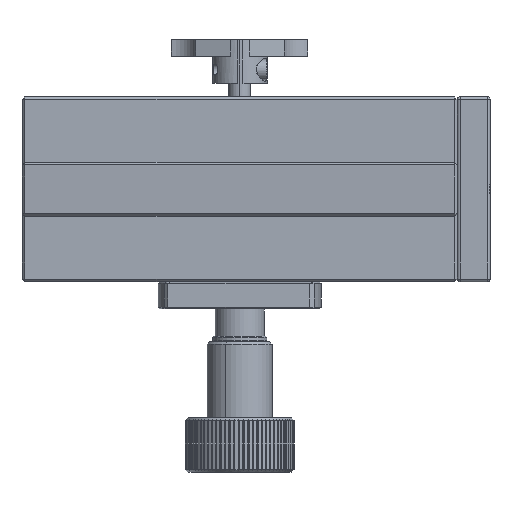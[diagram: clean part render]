
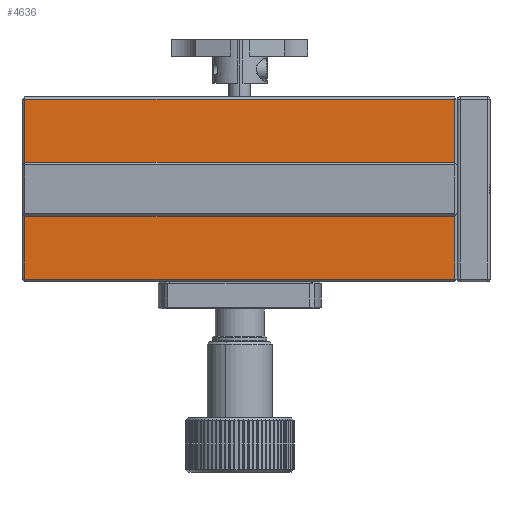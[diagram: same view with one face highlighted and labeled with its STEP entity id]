
A CAD part, left-side view. The second image highlights one B-rep face of the part: STEP entity #4636.
In plain terms, the highlighted planar face has unit normal (-1, 0, 0).
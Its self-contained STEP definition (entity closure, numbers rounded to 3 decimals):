
#537 = EDGE_LOOP ( 'NONE', ( #18690, #18696, #18705, #18714 ) ) ;
#555 = EDGE_LOOP ( 'NONE', ( #18692, #18730 ) ) ;
#563 = EDGE_LOOP ( 'NONE', ( #18742, #18694 ) ) ;
#572 = EDGE_LOOP ( 'NONE', ( #18699, #18693 ) ) ;
#1623 = VECTOR ( 'NONE', #3649, 1000. ) ;
#1624 = LINE ( 'NONE', #3667, #1623 ) ;
#1640 = VECTOR ( 'NONE', #3763, 1000. ) ;
#1652 = LINE ( 'NONE', #3705, #1661 ) ;
#1654 = CIRCLE ( 'NONE', #16956, 1.75 ) ;
#1661 = VECTOR ( 'NONE', #3689, 1000. ) ;
#1676 = CIRCLE ( 'NONE', #16902, 1.75 ) ;
#1698 = LINE ( 'NONE', #3741, #1640 ) ;
#1728 = CIRCLE ( 'NONE', #16949, 1.75 ) ;
#1735 = VECTOR ( 'NONE', #3805, 1000. ) ;
#1736 = CIRCLE ( 'NONE', #16963, 1.75 ) ;
#1747 = LINE ( 'NONE', #3767, #1735 ) ;
#3649 = DIRECTION ( 'NONE',  ( 0., -1., 0. ) ) ;
#3667 = CARTESIAN_POINT ( 'NONE',  ( -6.96, -1.785, -16.5 ) ) ;
#3674 = CARTESIAN_POINT ( 'NONE',  ( -6.96, 38.215, 0. ) ) ;
#3680 = DIRECTION ( 'NONE',  ( 1., 0., 0. ) ) ;
#3683 = DIRECTION ( 'NONE',  ( 0., 1., 0. ) ) ;
#3689 = DIRECTION ( 'NONE',  ( 0., 0., 1. ) ) ;
#3690 = DIRECTION ( 'NONE',  ( 0., 1., 0. ) ) ;
#3694 = CARTESIAN_POINT ( 'NONE',  ( -6.96, 68.215, 0. ) ) ;
#3705 = CARTESIAN_POINT ( 'NONE',  ( -6.96, -1.285, 17. ) ) ;
#3721 = DIRECTION ( 'NONE',  ( 1., 0., 0. ) ) ;
#3741 = CARTESIAN_POINT ( 'NONE',  ( -6.96, 77.715, 17. ) ) ;
#3763 = DIRECTION ( 'NONE',  ( 0., 0., -1. ) ) ;
#3767 = CARTESIAN_POINT ( 'NONE',  ( -6.96, -1.785, 16.5 ) ) ;
#3769 = CARTESIAN_POINT ( 'NONE',  ( -6.96, 68.215, 0. ) ) ;
#3770 = DIRECTION ( 'NONE',  ( 0., 1., 0. ) ) ;
#3773 = DIRECTION ( 'NONE',  ( 1., 0., 0. ) ) ;
#3787 = DIRECTION ( 'NONE',  ( 0., 1., 0. ) ) ;
#3795 = DIRECTION ( 'NONE',  ( 1., 0., 0. ) ) ;
#3805 = DIRECTION ( 'NONE',  ( 0., 1., 0. ) ) ;
#3809 = CARTESIAN_POINT ( 'NONE',  ( -6.96, 38.215, 0. ) ) ;
#4636 = ADVANCED_FACE ( 'NONE', ( #12045, #12123, #12091, #12125 ), #14055, .F. ) ;
#5193 = CARTESIAN_POINT ( 'NONE',  ( -6.96, 8.215, 0. ) ) ;
#5198 = DIRECTION ( 'NONE',  ( 1., 0., 0. ) ) ;
#5208 = DIRECTION ( 'NONE',  ( 0., 1., 0. ) ) ;
#5268 = DIRECTION ( 'NONE',  ( 0., 1., 0. ) ) ;
#5284 = CARTESIAN_POINT ( 'NONE',  ( -6.96, 8.215, 0. ) ) ;
#5288 = DIRECTION ( 'NONE',  ( 1., 0., 0. ) ) ;
#8788 = VERTEX_POINT ( 'NONE', #25429 ) ;
#8820 = VERTEX_POINT ( 'NONE', #25446 ) ;
#8836 = VERTEX_POINT ( 'NONE', #25391 ) ;
#8838 = VERTEX_POINT ( 'NONE', #25448 ) ;
#8888 = VERTEX_POINT ( 'NONE', #25474 ) ;
#8928 = VERTEX_POINT ( 'NONE', #25574 ) ;
#8933 = VERTEX_POINT ( 'NONE', #25527 ) ;
#8936 = VERTEX_POINT ( 'NONE', #25533 ) ;
#8941 = VERTEX_POINT ( 'NONE', #25551 ) ;
#8950 = VERTEX_POINT ( 'NONE', #25559 ) ;
#12045 = FACE_OUTER_BOUND ( 'NONE', #537, .T. ) ;
#12091 = FACE_BOUND ( 'NONE', #555, .T. ) ;
#12123 = FACE_BOUND ( 'NONE', #563, .T. ) ;
#12125 = FACE_BOUND ( 'NONE', #572, .T. ) ;
#14024 = DIRECTION ( 'NONE',  ( 1., 0., 0. ) ) ;
#14037 = DIRECTION ( 'NONE',  ( 0., 0., 1. ) ) ;
#14055 = PLANE ( 'NONE',  #17740 ) ;
#14072 = CARTESIAN_POINT ( 'NONE',  ( -6.96, -1.785, 17. ) ) ;
#14861 = EDGE_CURVE ( 'NONE', #8950, #8788, #1624, .T. ) ;
#14870 = EDGE_CURVE ( 'NONE', #8941, #8888, #1654, .T. ) ;
#14878 = EDGE_CURVE ( 'NONE', #8936, #8838, #1676, .T. ) ;
#14884 = EDGE_CURVE ( 'NONE', #8788, #8820, #1652, .T. ) ;
#14894 = EDGE_CURVE ( 'NONE', #8933, #8950, #1698, .T. ) ;
#14909 = EDGE_CURVE ( 'NONE', #8838, #8936, #1736, .T. ) ;
#14914 = EDGE_CURVE ( 'NONE', #8820, #8933, #1747, .T. ) ;
#14917 = EDGE_CURVE ( 'NONE', #8888, #8941, #1728, .T. ) ;
#15548 = CIRCLE ( 'NONE', #17110, 1.75 ) ;
#15561 = CIRCLE ( 'NONE', #17244, 1.75 ) ;
#16902 = AXIS2_PLACEMENT_3D ( 'NONE', #3694, #3721, #3690 ) ;
#16949 = AXIS2_PLACEMENT_3D ( 'NONE', #3809, #3795, #3770 ) ;
#16956 = AXIS2_PLACEMENT_3D ( 'NONE', #3674, #3680, #3683 ) ;
#16963 = AXIS2_PLACEMENT_3D ( 'NONE', #3769, #3773, #3787 ) ;
#17110 = AXIS2_PLACEMENT_3D ( 'NONE', #5193, #5198, #5208 ) ;
#17244 = AXIS2_PLACEMENT_3D ( 'NONE', #5284, #5288, #5268 ) ;
#17740 = AXIS2_PLACEMENT_3D ( 'NONE', #14072, #14024, #14037 ) ;
#17808 = EDGE_CURVE ( 'NONE', #8928, #8836, #15548, .T. ) ;
#17854 = EDGE_CURVE ( 'NONE', #8836, #8928, #15561, .T. ) ;
#18690 = ORIENTED_EDGE ( 'NONE', *, *, #14914, .T. ) ;
#18692 = ORIENTED_EDGE ( 'NONE', *, *, #14917, .T. ) ;
#18693 = ORIENTED_EDGE ( 'NONE', *, *, #14878, .T. ) ;
#18694 = ORIENTED_EDGE ( 'NONE', *, *, #17808, .T. ) ;
#18696 = ORIENTED_EDGE ( 'NONE', *, *, #14894, .T. ) ;
#18699 = ORIENTED_EDGE ( 'NONE', *, *, #14909, .T. ) ;
#18705 = ORIENTED_EDGE ( 'NONE', *, *, #14861, .T. ) ;
#18714 = ORIENTED_EDGE ( 'NONE', *, *, #14884, .T. ) ;
#18730 = ORIENTED_EDGE ( 'NONE', *, *, #14870, .T. ) ;
#18742 = ORIENTED_EDGE ( 'NONE', *, *, #17854, .T. ) ;
#25391 = CARTESIAN_POINT ( 'NONE',  ( -6.96, 9.965, 0. ) ) ;
#25429 = CARTESIAN_POINT ( 'NONE',  ( -6.96, -1.285, -16.5 ) ) ;
#25446 = CARTESIAN_POINT ( 'NONE',  ( -6.96, -1.285, 16.5 ) ) ;
#25448 = CARTESIAN_POINT ( 'NONE',  ( -6.96, 69.965, 0. ) ) ;
#25474 = CARTESIAN_POINT ( 'NONE',  ( -6.96, 39.965, 0. ) ) ;
#25527 = CARTESIAN_POINT ( 'NONE',  ( -6.96, 77.715, 16.5 ) ) ;
#25533 = CARTESIAN_POINT ( 'NONE',  ( -6.96, 66.465, 0. ) ) ;
#25551 = CARTESIAN_POINT ( 'NONE',  ( -6.96, 36.465, 0. ) ) ;
#25559 = CARTESIAN_POINT ( 'NONE',  ( -6.96, 77.715, -16.5 ) ) ;
#25574 = CARTESIAN_POINT ( 'NONE',  ( -6.96, 6.465, 0. ) ) ;
